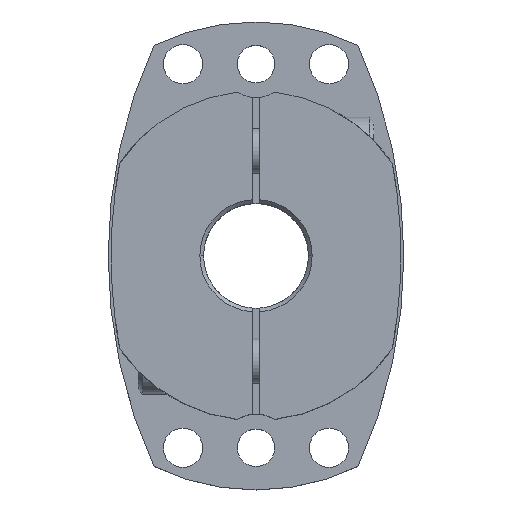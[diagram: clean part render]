
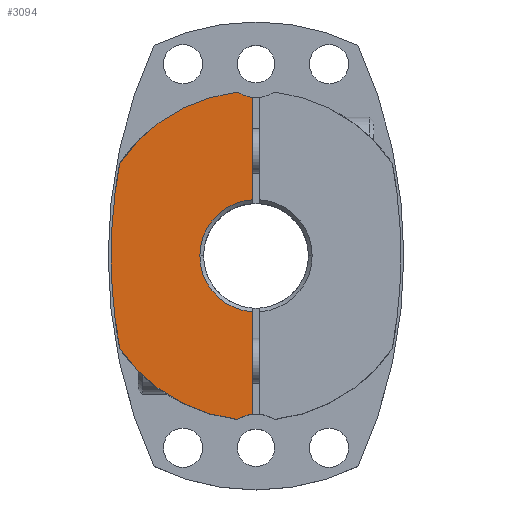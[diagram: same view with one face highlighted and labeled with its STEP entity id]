
A CAD part, top view. The second image highlights one B-rep face of the part: STEP entity #3094.
In plain terms, the highlighted planar face has unit normal (0, 0, 1).
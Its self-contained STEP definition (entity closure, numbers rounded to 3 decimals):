
#412=CARTESIAN_POINT('',(-15.,0.,36.0));
#413=VERTEX_POINT('',#412);
#421=CARTESIAN_POINT('',(-1.,14.967,36.0));
#422=VERTEX_POINT('',#421);
#436=CARTESIAN_POINT('',(0.,0.,36.0));
#437=DIRECTION('',(0.0,0.0,1.0));
#438=DIRECTION('',(-1.0,0.0,0.0));
#439=AXIS2_PLACEMENT_3D('',#436,#437,#438);
#440=CIRCLE('',#439,15.0);
#441=EDGE_CURVE('',#422,#413,#440,.T.);
#451=CARTESIAN_POINT('',(-38.7,0.,36.0));
#452=VERTEX_POINT('',#451);
#461=CARTESIAN_POINT('',(-36.405,24.712,36.0));
#462=VERTEX_POINT('',#461);
#463=CARTESIAN_POINT('',(95.5,0.,36.0));
#464=DIRECTION('',(0.0,0.0,-1.0));
#465=DIRECTION('',(1.0,0.0,0.0));
#466=AXIS2_PLACEMENT_3D('',#463,#464,#465);
#467=CIRCLE('',#466,134.2);
#468=EDGE_CURVE('',#452,#462,#467,.T.);
#2005=CARTESIAN_POINT('',(-4.933,-43.723,36.0));
#2006=VERTEX_POINT('',#2005);
#2013=CARTESIAN_POINT('',(-36.405,-24.712,36.0));
#2014=VERTEX_POINT('',#2013);
#2015=CARTESIAN_POINT('',(0.,0.,36.0));
#2016=DIRECTION('',(0.0,0.0,-1.0));
#2017=DIRECTION('',(1.0,0.0,0.0));
#2018=AXIS2_PLACEMENT_3D('',#2015,#2016,#2017);
#2019=CIRCLE('',#2018,44.);
#2020=EDGE_CURVE('',#2006,#2014,#2019,.T.);
#2654=CARTESIAN_POINT('',(95.5,0.,36.0));
#2655=DIRECTION('',(0.0,0.0,-1.0));
#2656=DIRECTION('',(1.0,0.0,0.0));
#2657=AXIS2_PLACEMENT_3D('',#2654,#2655,#2656);
#2658=CIRCLE('',#2657,134.2);
#2659=EDGE_CURVE('',#2014,#452,#2658,.T.);
#2704=CARTESIAN_POINT('',(-1.,42.306,36.0));
#2705=VERTEX_POINT('',#2704);
#2721=CARTESIAN_POINT('',(-4.933,43.723,36.0));
#2722=VERTEX_POINT('',#2721);
#2729=CARTESIAN_POINT('',(0.,51.25,36.0));
#2730=DIRECTION('',(0.0,0.0,-1.0));
#2731=DIRECTION('',(1.0,0.0,0.0));
#2732=AXIS2_PLACEMENT_3D('',#2729,#2730,#2731);
#2733=CIRCLE('',#2732,9.0);
#2734=EDGE_CURVE('',#2705,#2722,#2733,.T.);
#2796=CARTESIAN_POINT('',(-1.,-42.306,36.0));
#2797=VERTEX_POINT('',#2796);
#2804=CARTESIAN_POINT('',(0.,-51.25,36.0));
#2805=DIRECTION('',(0.0,0.0,-1.0));
#2806=DIRECTION('',(1.0,0.0,0.0));
#2807=AXIS2_PLACEMENT_3D('',#2804,#2805,#2806);
#2808=CIRCLE('',#2807,9.0);
#2809=EDGE_CURVE('',#2006,#2797,#2808,.T.);
#2928=CARTESIAN_POINT('',(-1.,14.967,36.0));
#2929=DIRECTION('',(0.0,1.0,0.0));
#2930=VECTOR('',#2929,27.339);
#2931=LINE('',#2928,#2930);
#2932=EDGE_CURVE('',#422,#2705,#2931,.T.);
#3058=CARTESIAN_POINT('',(0.,0.,36.0));
#3059=DIRECTION('',(0.0,0.0,1.0));
#3060=DIRECTION('',(1.0,0.0,0.0));
#3061=AXIS2_PLACEMENT_3D('',#3058,#3059,#3060);
#3062=PLANE('',#3061);
#3063=ORIENTED_EDGE('',*,*,#2734,.T.);
#3064=CARTESIAN_POINT('',(0.,0.,36.0));
#3065=DIRECTION('',(0.0,0.0,-1.0));
#3066=DIRECTION('',(1.0,0.0,0.0));
#3067=AXIS2_PLACEMENT_3D('',#3064,#3065,#3066);
#3068=CIRCLE('',#3067,44.);
#3069=EDGE_CURVE('',#462,#2722,#3068,.T.);
#3070=ORIENTED_EDGE('',*,*,#3069,.F.);
#3071=ORIENTED_EDGE('',*,*,#468,.F.);
#3072=ORIENTED_EDGE('',*,*,#2659,.F.);
#3073=ORIENTED_EDGE('',*,*,#2020,.F.);
#3074=ORIENTED_EDGE('',*,*,#2809,.T.);
#3075=CARTESIAN_POINT('',(-1.,-14.967,36.0));
#3076=VERTEX_POINT('',#3075);
#3077=CARTESIAN_POINT('',(-1.,-42.306,36.0));
#3078=DIRECTION('',(0.0,1.0,0.0));
#3079=VECTOR('',#3078,27.339);
#3080=LINE('',#3077,#3079);
#3081=EDGE_CURVE('',#2797,#3076,#3080,.T.);
#3082=ORIENTED_EDGE('',*,*,#3081,.T.);
#3083=CARTESIAN_POINT('',(0.,0.,36.0));
#3084=DIRECTION('',(0.0,0.0,1.0));
#3085=DIRECTION('',(-1.0,0.0,0.0));
#3086=AXIS2_PLACEMENT_3D('',#3083,#3084,#3085);
#3087=CIRCLE('',#3086,15.0);
#3088=EDGE_CURVE('',#413,#3076,#3087,.T.);
#3089=ORIENTED_EDGE('',*,*,#3088,.F.);
#3090=ORIENTED_EDGE('',*,*,#441,.F.);
#3091=ORIENTED_EDGE('',*,*,#2932,.T.);
#3092=EDGE_LOOP('',(#3063,#3070,#3071,#3072,#3073,#3074,#3082,#3089,#3090,#3091));
#3093=FACE_OUTER_BOUND('',#3092,.T.);
#3094=ADVANCED_FACE('',(#3093),#3062,.T.);
